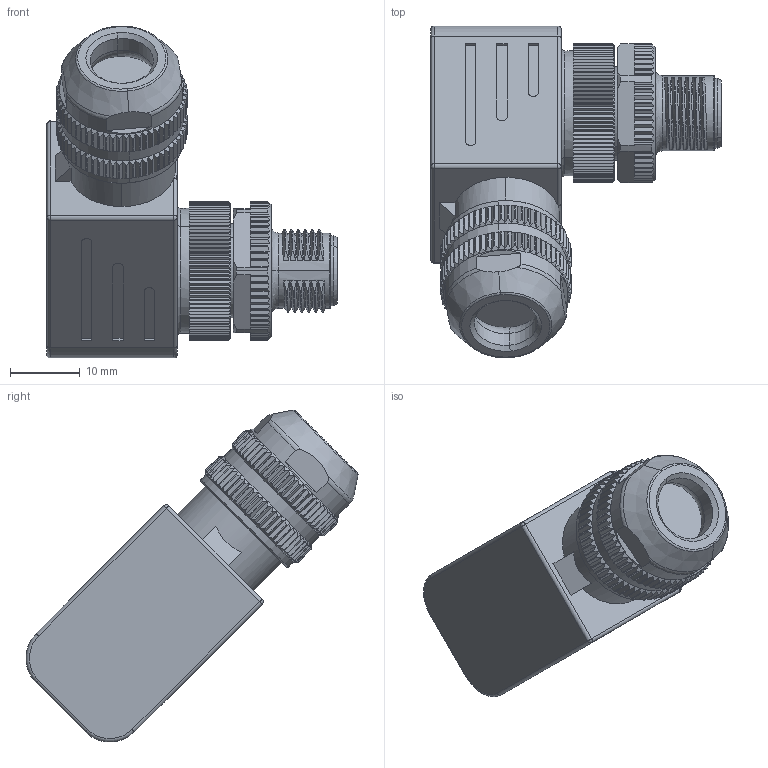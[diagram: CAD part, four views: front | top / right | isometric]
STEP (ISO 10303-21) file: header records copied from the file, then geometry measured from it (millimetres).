
FILE_DESCRIPTION (( 'STEP AP203' ), '1' );
FILE_NAME ('64F501.STEP', '2023-06-15T05:50:03', ( '' ), ( '' ), 'SwSTEP 2.0', 'SolidWorks 2016', '' );
FILE_SCHEMA (( 'CONFIG_CONTROL_DESIGN' ));
Products named in the file (1): 64F501
Bounding box: 41.8 x 47.75 x 47.75 mm (x, y, z)
Volume: 19681.8 mm3; surface area: 9747 mm2
Topology: 2 solids, 7 shells, 1382 faces, 3678 edges, 2342 vertices
Faces by surface type: plane 681, cylinder 429, cone 183, bspline 71, torus 14, sphere 4
Entity records: 50347 total; most frequent: CARTESIAN_POINT 18762, ORIENTED_EDGE 7342, DIRECTION 5527, EDGE_CURVE 3671, VERTEX_POINT 2342, AXIS2_PLACEMENT_3D 2175, B_SPLINE_CURVE_WITH_KNOTS 1613, EDGE_LOOP 1433
